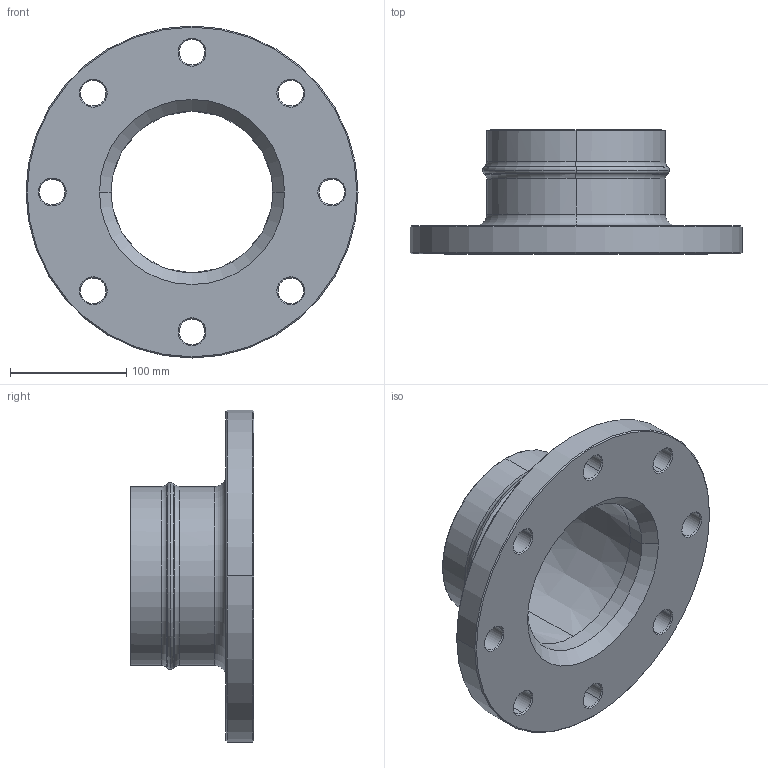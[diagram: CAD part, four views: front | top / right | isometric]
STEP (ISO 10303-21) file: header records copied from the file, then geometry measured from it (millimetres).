
FILE_DESCRIPTION((''),'2;1');
FILE_NAME('AU15917000','2019-12-13T',('Administrator'),(''),'PRO/ENGINEER BY PARAMETRIC TECHNOLOGY CORPORATION, 2009360','PRO/ENGINEER BY PARAMETRIC TECHNOLOGY CORPORATION, 2009360','');
FILE_SCHEMA(('AUTOMOTIVE_DESIGN_CC2 { 1 2 10303 214 -1 1 5 2 }'));
Length unit declared in the file: millimetre
Products named in the file (1): AU15917000
Bounding box: 285 x 106.27 x 285 mm (x, y, z)
Volume: 1350845.3 mm3; surface area: 206656.7 mm2
Topology: 1 solids, 1 shells, 85 faces, 196 edges, 114 vertices
Faces by surface type: cone 44, cylinder 24, torus 14, plane 3
Entity records: 3073 total; most frequent: DIRECTION 494, CARTESIAN_POINT 395, ORIENTED_EDGE 392, AXIS2_PLACEMENT_3D 213, PRESENTATION_STYLE_ASSIGNMENT 197, STYLED_ITEM 197, CURVE_STYLE 196, EDGE_CURVE 196
